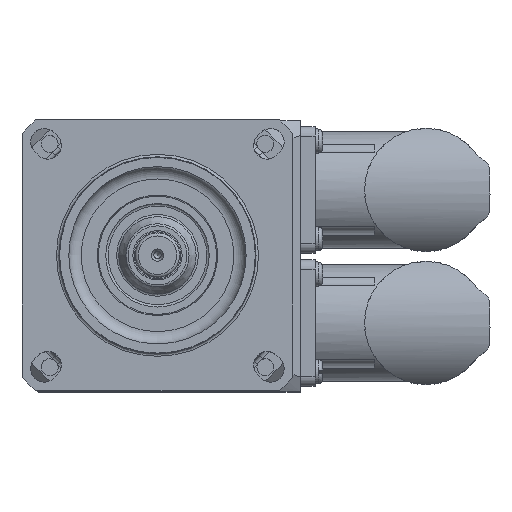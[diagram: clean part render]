
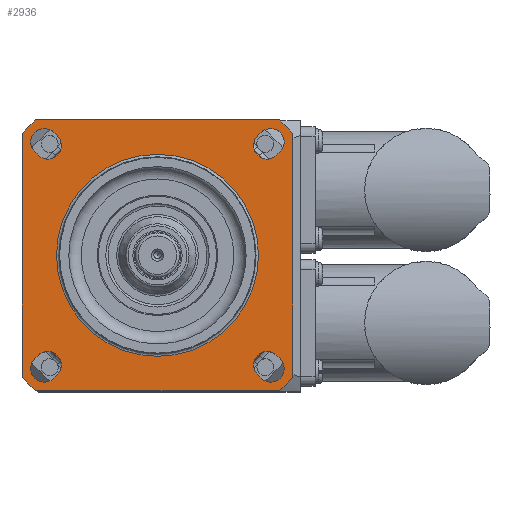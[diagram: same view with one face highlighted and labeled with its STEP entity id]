
A CAD part, top view. The second image highlights one B-rep face of the part: STEP entity #2936.
In plain terms, the highlighted planar face has unit normal (0, 0, 1) as drawn and (0, -1, 0) by its records, which use the part's own axes.
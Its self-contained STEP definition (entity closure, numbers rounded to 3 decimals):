
#1046=LINE('',#21851,#1576);
#1050=LINE('',#21860,#1580);
#1054=LINE('',#21869,#1584);
#1058=LINE('',#21878,#1588);
#1087=LINE('',#22170,#1617);
#1088=LINE('',#22175,#1618);
#1089=LINE('',#22178,#1619);
#1090=LINE('',#22183,#1620);
#1091=LINE('',#22186,#1621);
#1092=LINE('',#22191,#1622);
#1093=LINE('',#22194,#1623);
#1094=LINE('',#22199,#1624);
#1576=VECTOR('',#16256,1.);
#1580=VECTOR('',#16262,1.);
#1584=VECTOR('',#16268,1.);
#1588=VECTOR('',#16274,1.);
#1617=VECTOR('',#16315,1.);
#1618=VECTOR('',#16318,1.);
#1619=VECTOR('',#16321,1.);
#1620=VECTOR('',#16324,1.);
#1621=VECTOR('',#16327,1.);
#1622=VECTOR('',#16330,1.);
#1623=VECTOR('',#16333,1.);
#1624=VECTOR('',#16336,1.);
#2936=ADVANCED_FACE('',(#4148,#4149,#4150,#4151,#4152,#3701),#3208,.T.);
#3208=PLANE('',#13340);
#3701=FACE_OUTER_BOUND('',#5040,.T.);
#4148=FACE_BOUND('',#5035,.T.);
#4149=FACE_BOUND('',#5036,.T.);
#4150=FACE_BOUND('',#5037,.T.);
#4151=FACE_BOUND('',#5038,.T.);
#4152=FACE_BOUND('',#5039,.T.);
#5035=EDGE_LOOP('',(#7899));
#5036=EDGE_LOOP('',(#7900,#7901,#7902,#7903));
#5037=EDGE_LOOP('',(#7904,#7905,#7906,#7907));
#5038=EDGE_LOOP('',(#7908,#7909,#7910,#7911));
#5039=EDGE_LOOP('',(#7912,#7913,#7914,#7915));
#5040=EDGE_LOOP('',(#7916,#7917,#7918,#7919,#7920,#7921,#7922,#7923));
#7899=ORIENTED_EDGE('',*,*,#11161,.T.);
#7900=ORIENTED_EDGE('',*,*,#11162,.T.);
#7901=ORIENTED_EDGE('',*,*,#11163,.F.);
#7902=ORIENTED_EDGE('',*,*,#11164,.F.);
#7903=ORIENTED_EDGE('',*,*,#11165,.F.);
#7904=ORIENTED_EDGE('',*,*,#11166,.T.);
#7905=ORIENTED_EDGE('',*,*,#11167,.F.);
#7906=ORIENTED_EDGE('',*,*,#11168,.F.);
#7907=ORIENTED_EDGE('',*,*,#11169,.F.);
#7908=ORIENTED_EDGE('',*,*,#11170,.T.);
#7909=ORIENTED_EDGE('',*,*,#11171,.F.);
#7910=ORIENTED_EDGE('',*,*,#11172,.F.);
#7911=ORIENTED_EDGE('',*,*,#11173,.F.);
#7912=ORIENTED_EDGE('',*,*,#11174,.T.);
#7913=ORIENTED_EDGE('',*,*,#11175,.F.);
#7914=ORIENTED_EDGE('',*,*,#11176,.F.);
#7915=ORIENTED_EDGE('',*,*,#11177,.F.);
#7916=ORIENTED_EDGE('',*,*,#11178,.T.);
#7917=ORIENTED_EDGE('',*,*,#11104,.T.);
#7918=ORIENTED_EDGE('',*,*,#11179,.T.);
#7919=ORIENTED_EDGE('',*,*,#11096,.T.);
#7920=ORIENTED_EDGE('',*,*,#11180,.T.);
#7921=ORIENTED_EDGE('',*,*,#11092,.T.);
#7922=ORIENTED_EDGE('',*,*,#11181,.T.);
#7923=ORIENTED_EDGE('',*,*,#11100,.F.);
#9541=VERTEX_POINT('',#21846);
#9543=VERTEX_POINT('',#21850);
#9545=VERTEX_POINT('',#21855);
#9547=VERTEX_POINT('',#21859);
#9549=VERTEX_POINT('',#21864);
#9551=VERTEX_POINT('',#21868);
#9553=VERTEX_POINT('',#21873);
#9555=VERTEX_POINT('',#21877);
#9612=VERTEX_POINT('',#22169);
#9613=VERTEX_POINT('',#22171);
#9614=VERTEX_POINT('',#22172);
#9615=VERTEX_POINT('',#22174);
#9616=VERTEX_POINT('',#22176);
#9617=VERTEX_POINT('',#22179);
#9618=VERTEX_POINT('',#22180);
#9619=VERTEX_POINT('',#22182);
#9620=VERTEX_POINT('',#22184);
#9621=VERTEX_POINT('',#22187);
#9622=VERTEX_POINT('',#22188);
#9623=VERTEX_POINT('',#22190);
#9624=VERTEX_POINT('',#22192);
#9625=VERTEX_POINT('',#22195);
#9626=VERTEX_POINT('',#22196);
#9627=VERTEX_POINT('',#22198);
#9628=VERTEX_POINT('',#22200);
#11092=EDGE_CURVE('',#9541,#9543,#1046,.T.);
#11096=EDGE_CURVE('',#9545,#9547,#1050,.T.);
#11100=EDGE_CURVE('',#9551,#9549,#1054,.T.);
#11104=EDGE_CURVE('',#9553,#9555,#1058,.T.);
#11161=EDGE_CURVE('',#9612,#9612,#12032,.T.);
#11162=EDGE_CURVE('',#9613,#9614,#1087,.T.);
#11163=EDGE_CURVE('',#9615,#9614,#12033,.T.);
#11164=EDGE_CURVE('',#9616,#9615,#1088,.T.);
#11165=EDGE_CURVE('',#9613,#9616,#12034,.T.);
#11166=EDGE_CURVE('',#9617,#9618,#1089,.T.);
#11167=EDGE_CURVE('',#9619,#9618,#12035,.T.);
#11168=EDGE_CURVE('',#9620,#9619,#1090,.T.);
#11169=EDGE_CURVE('',#9617,#9620,#12036,.T.);
#11170=EDGE_CURVE('',#9621,#9622,#1091,.T.);
#11171=EDGE_CURVE('',#9623,#9622,#12037,.T.);
#11172=EDGE_CURVE('',#9624,#9623,#1092,.T.);
#11173=EDGE_CURVE('',#9621,#9624,#12038,.T.);
#11174=EDGE_CURVE('',#9625,#9626,#1093,.T.);
#11175=EDGE_CURVE('',#9627,#9626,#12039,.T.);
#11176=EDGE_CURVE('',#9628,#9627,#1094,.T.);
#11177=EDGE_CURVE('',#9625,#9628,#12040,.T.);
#11178=EDGE_CURVE('',#9551,#9553,#12041,.T.);
#11179=EDGE_CURVE('',#9555,#9545,#12042,.T.);
#11180=EDGE_CURVE('',#9547,#9541,#12043,.T.);
#11181=EDGE_CURVE('',#9543,#9549,#12044,.T.);
#12032=CIRCLE('',#13327,20.5);
#12033=CIRCLE('',#13328,2.75);
#12034=CIRCLE('',#13329,2.75);
#12035=CIRCLE('',#13330,2.75);
#12036=CIRCLE('',#13331,2.75);
#12037=CIRCLE('',#13332,2.75);
#12038=CIRCLE('',#13333,2.75);
#12039=CIRCLE('',#13334,2.75);
#12040=CIRCLE('',#13335,2.75);
#12041=CIRCLE('',#13336,37.);
#12042=CIRCLE('',#13337,37.);
#12043=CIRCLE('',#13338,37.);
#12044=CIRCLE('',#13339,37.);
#13327=AXIS2_PLACEMENT_3D('',#22168,#16313,#16314);
#13328=AXIS2_PLACEMENT_3D('',#22173,#16316,#16317);
#13329=AXIS2_PLACEMENT_3D('',#22177,#16319,#16320);
#13330=AXIS2_PLACEMENT_3D('',#22181,#16322,#16323);
#13331=AXIS2_PLACEMENT_3D('',#22185,#16325,#16326);
#13332=AXIS2_PLACEMENT_3D('',#22189,#16328,#16329);
#13333=AXIS2_PLACEMENT_3D('',#22193,#16331,#16332);
#13334=AXIS2_PLACEMENT_3D('',#22197,#16334,#16335);
#13335=AXIS2_PLACEMENT_3D('',#22201,#16337,#16338);
#13336=AXIS2_PLACEMENT_3D('',#22202,#16339,#16340);
#13337=AXIS2_PLACEMENT_3D('',#22203,#16341,#16342);
#13338=AXIS2_PLACEMENT_3D('',#22204,#16343,#16344);
#13339=AXIS2_PLACEMENT_3D('',#22205,#16345,#16346);
#13340=AXIS2_PLACEMENT_3D('',#22206,#16347,#16348);
#16256=DIRECTION('',(-1.,0.,0.));
#16262=DIRECTION('',(0.,0.,1.));
#16268=DIRECTION('',(0.,0.,1.));
#16274=DIRECTION('',(1.,0.,0.));
#16313=DIRECTION('',(0.,1.,0.));
#16314=DIRECTION('',(0.,0.,-1.));
#16315=DIRECTION('',(0.707,0.,0.707));
#16316=DIRECTION('',(0.,-1.,0.));
#16317=DIRECTION('',(1.,0.,0.));
#16318=DIRECTION('',(0.707,0.,0.707));
#16319=DIRECTION('',(0.,-1.,0.));
#16320=DIRECTION('',(1.,0.,0.));
#16321=DIRECTION('',(-0.707,0.,0.707));
#16322=DIRECTION('',(0.,-1.,0.));
#16323=DIRECTION('',(0.,0.,1.));
#16324=DIRECTION('',(-0.707,0.,0.707));
#16325=DIRECTION('',(0.,-1.,0.));
#16326=DIRECTION('',(0.,0.,1.));
#16327=DIRECTION('',(-0.707,0.,-0.707));
#16328=DIRECTION('',(0.,-1.,0.));
#16329=DIRECTION('',(-1.,0.,0.));
#16330=DIRECTION('',(-0.707,0.,-0.707));
#16331=DIRECTION('',(0.,-1.,0.));
#16332=DIRECTION('',(-1.,0.,0.));
#16333=DIRECTION('',(0.707,0.,-0.707));
#16334=DIRECTION('',(0.,-1.,0.));
#16335=DIRECTION('',(0.,0.,-1.));
#16336=DIRECTION('',(0.707,0.,-0.707));
#16337=DIRECTION('',(0.,-1.,0.));
#16338=DIRECTION('',(0.,0.,-1.));
#16339=DIRECTION('',(0.,-1.,0.));
#16340=DIRECTION('',(-1.,0.,0.));
#16341=DIRECTION('',(0.,-1.,0.));
#16342=DIRECTION('',(-1.,0.,0.));
#16343=DIRECTION('',(0.,-1.,0.));
#16344=DIRECTION('',(-1.,0.,0.));
#16345=DIRECTION('',(0.,-1.,0.));
#16346=DIRECTION('',(-1.,0.,0.));
#16347=DIRECTION('',(0.,-1.,0.));
#16348=DIRECTION('',(0.,0.,-1.));
#21846=CARTESIAN_POINT('',(17.254,-0.5,20.));
#21850=CARTESIAN_POINT('',(-32.254,-0.5,20.));
#21851=CARTESIAN_POINT('',(-7.5,-0.5,20.));
#21855=CARTESIAN_POINT('',(20.,-0.5,-32.254));
#21859=CARTESIAN_POINT('',(20.,-0.5,17.254));
#21860=CARTESIAN_POINT('',(20.,-0.5,-35.));
#21864=CARTESIAN_POINT('',(-35.,-0.5,17.254));
#21868=CARTESIAN_POINT('',(-35.,-0.5,-32.254));
#21869=CARTESIAN_POINT('',(-35.,-0.5,-35.));
#21873=CARTESIAN_POINT('',(-32.254,-0.5,-35.));
#21877=CARTESIAN_POINT('',(17.254,-0.5,-35.));
#21878=CARTESIAN_POINT('',(-7.5,-0.5,-35.));
#22168=CARTESIAN_POINT('',(-7.5,-0.5,-7.5));
#22169=CARTESIAN_POINT('',(-7.5,-0.5,-28.));
#22170=CARTESIAN_POINT('',(-32.072,-0.5,-28.183));
#22171=CARTESIAN_POINT('',(-32.426,-0.5,-28.536));
#22172=CARTESIAN_POINT('',(-31.718,-0.5,-27.829));
#22173=CARTESIAN_POINT('',(-29.774,-0.5,-29.774));
#22174=CARTESIAN_POINT('',(-27.829,-0.5,-31.718));
#22175=CARTESIAN_POINT('',(-28.183,-0.5,-32.072));
#22176=CARTESIAN_POINT('',(-28.536,-0.5,-32.426));
#22177=CARTESIAN_POINT('',(-30.481,-0.5,-30.481));
#22178=CARTESIAN_POINT('',(13.183,-0.5,-32.072));
#22179=CARTESIAN_POINT('',(13.536,-0.5,-32.426));
#22180=CARTESIAN_POINT('',(12.829,-0.5,-31.718));
#22181=CARTESIAN_POINT('',(14.774,-0.5,-29.774));
#22182=CARTESIAN_POINT('',(16.718,-0.5,-27.829));
#22183=CARTESIAN_POINT('',(17.072,-0.5,-28.183));
#22184=CARTESIAN_POINT('',(17.426,-0.5,-28.536));
#22185=CARTESIAN_POINT('',(15.481,-0.5,-30.481));
#22186=CARTESIAN_POINT('',(17.072,-0.5,13.183));
#22187=CARTESIAN_POINT('',(17.426,-0.5,13.536));
#22188=CARTESIAN_POINT('',(16.718,-0.5,12.829));
#22189=CARTESIAN_POINT('',(14.774,-0.5,14.774));
#22190=CARTESIAN_POINT('',(12.829,-0.5,16.718));
#22191=CARTESIAN_POINT('',(13.183,-0.5,17.072));
#22192=CARTESIAN_POINT('',(13.536,-0.5,17.426));
#22193=CARTESIAN_POINT('',(15.481,-0.5,15.481));
#22194=CARTESIAN_POINT('',(-28.183,-0.5,17.072));
#22195=CARTESIAN_POINT('',(-28.536,-0.5,17.426));
#22196=CARTESIAN_POINT('',(-27.829,-0.5,16.718));
#22197=CARTESIAN_POINT('',(-29.774,-0.5,14.774));
#22198=CARTESIAN_POINT('',(-31.718,-0.5,12.829));
#22199=CARTESIAN_POINT('',(-32.072,-0.5,13.183));
#22200=CARTESIAN_POINT('',(-32.426,-0.5,13.536));
#22201=CARTESIAN_POINT('',(-30.481,-0.5,15.481));
#22202=CARTESIAN_POINT('',(-7.5,-0.5,-7.5));
#22203=CARTESIAN_POINT('',(-7.5,-0.5,-7.5));
#22204=CARTESIAN_POINT('',(-7.5,-0.5,-7.5));
#22205=CARTESIAN_POINT('',(-7.5,-0.5,-7.5));
#22206=CARTESIAN_POINT('',(-7.5,-0.5,-35.));
